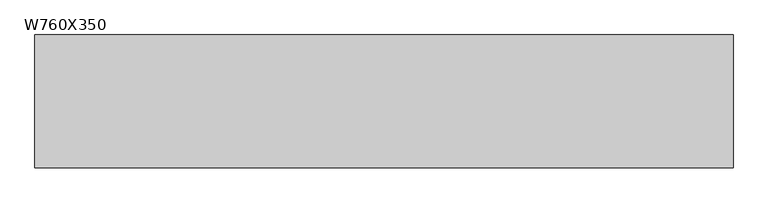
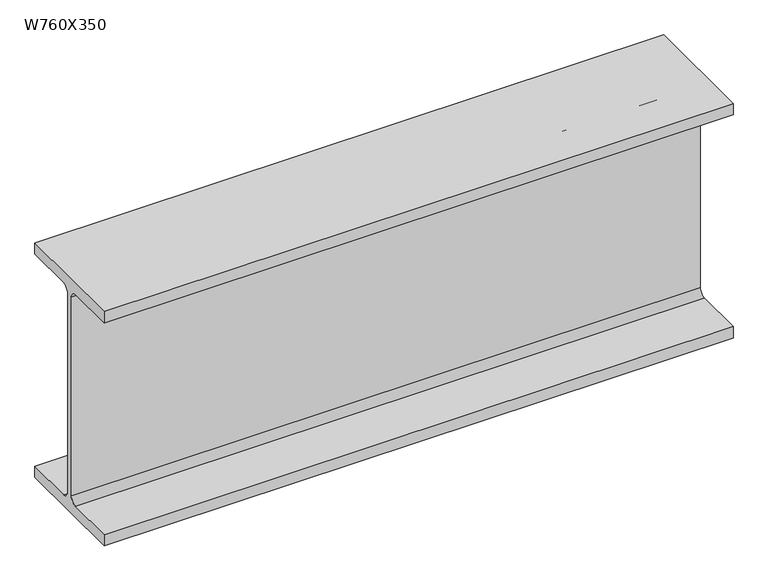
"""IFC4 building model written with IfcOpenShell, lengths in millimetres: beam geometry, M_W-Wide Flange : W760X350."""

from ifc_helpers import new_model, si_unit, point, frame, frame_2d, origin, place, context, project, spatial, polyline, circle_curve, trimmed, segment, composite_curve, outline, extrude, source, transform, mapped, element, save


def w760x350_b2b244ea(model_context):
    return source(origin(), model_context, "Body", "SweptSolid", [
        extrude(outline(composite_curve([segment(polyline([(192.0, -359.4), (192.0, -397.5), (-192.0, -397.5), (-192.0, -359.4), (-32.75, -359.4)]), True, "CONTINUOUS"), segment(trimmed(circle_curve(frame_2d((-32.75, -337.2)), 22.2), [point((-32.75, -359.4))], [point((-10.55, -337.2))], True, "CARTESIAN"), True, "CONTINUOUS"), segment(polyline([(-10.55, -337.2), (-10.55, 337.2)]), True, "CONTINUOUS"), segment(trimmed(circle_curve(frame_2d((-32.75, 337.2)), 22.2), [point((-10.55, 337.2))], [point((-32.75, 359.4))], True, "CARTESIAN"), True, "CONTINUOUS"), segment(polyline([(-32.75, 359.4), (-192.0, 359.4), (-192.0, 397.5), (192.0, 397.5), (192.0, 359.4), (32.75, 359.4)]), True, "CONTINUOUS"), segment(trimmed(circle_curve(frame_2d((32.75, 337.2)), 22.2), [point((32.75, 359.4))], [point((10.55, 337.2))], True, "CARTESIAN"), True, "CONTINUOUS"), segment(polyline([(10.55, 337.2), (10.55, -337.2)]), True, "CONTINUOUS"), segment(trimmed(circle_curve(frame_2d((32.75, -337.2)), 22.2), [point((10.55, -337.2))], [point((32.75, -359.4))], True, "CARTESIAN"), True, "CONTINUOUS"), segment(polyline([(32.75, -359.4), (192.0, -359.4)]), True, "CONTINUOUS")], self_intersect=False)), frame((-1008.2943939, 0.0, 0.0), z_axis=(1.0, 0.0, 0.0), x_axis=(0.0, 1.0, 0.0)), (0.0, 0.0, 1.0), 2016.5887878),
    ])


if __name__ == "__main__":
    model = new_model("IFC4")
    model_context = context("Model", 3, world=origin())
    ifc_project = project(units=[si_unit("LENGTHUNIT", "METRE", prefix="MILLI")], contexts=[model_context])
    site = spatial("IfcSite", under=ifc_project)
    building = spatial("IfcBuilding", under=site)
    placement = place(None, origin())
    w760x350_shape = w760x350_b2b244ea(model_context)
    element("IfcBeam", 1, ObjectType="M_W-Wide Flange : W760X350", at=placement, inside=building, context=model_context, shape_type="MappedRepresentation", body=[
        mapped(w760x350_shape, transform((0.0, 0.0, 0.0), x_axis=(1.0, 0.0, 0.0), y_axis=(0.0, 1.0, 0.0), z_axis=(0.0, 0.0, 1.0))),
    ])
    save(model, "model.ifc")
